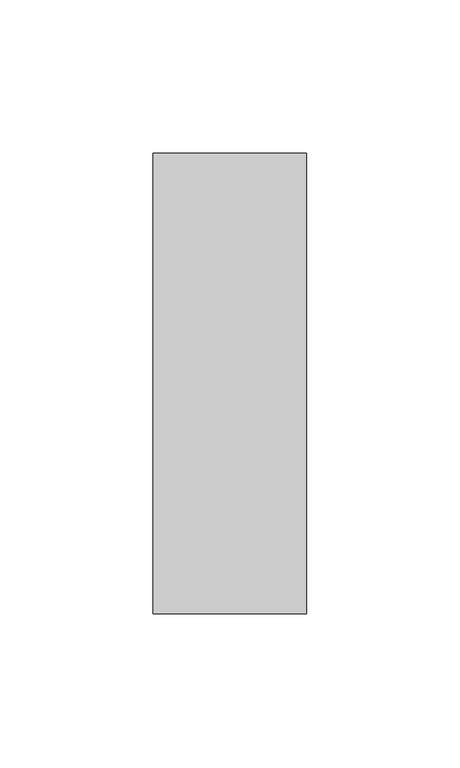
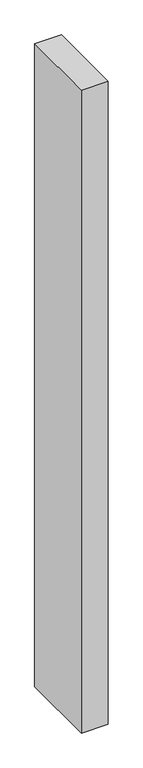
"""IFC4 building model written with IfcOpenShell, lengths in millimetres: member geometry, Прямоугольный импост : 50 x 150 мм."""

from ifc_helpers import new_model, si_unit, frame, origin, place, context, project, spatial, polyline, outline, extrude, source, transform, mapped, element, save


def member_f12fed75(model_context):
    return source(origin(), model_context, "Body", "SweptSolid", [
        extrude(outline(polyline([(25.0, 75.0), (25.0, -75.0), (-25.0, -75.0), (-25.0, 75.0), (25.0, 75.0)])), frame((0.0, 0.0, -1263.3746931), z_axis=(0.0, 0.0, 1.0), x_axis=(1.0, 0.0, 0.0)), (0.0, 0.0, 1.0), 1263.3746931),
    ])


if __name__ == "__main__":
    model = new_model("IFC4")
    model_context = context("Model", 3, world=origin())
    ifc_project = project(units=[si_unit("LENGTHUNIT", "METRE", prefix="MILLI")], contexts=[model_context])
    site = spatial("IfcSite", under=ifc_project)
    building = spatial("IfcBuilding", under=site)
    placement = place(None, origin())
    member_shape = member_f12fed75(model_context)
    element("IfcMember", 1, ObjectType="Прямоугольный импост : 50 x 150 мм", at=placement, inside=building, context=model_context, shape_type="MappedRepresentation", body=[
        mapped(member_shape, transform((0.0, 0.0, 0.0), x_axis=(1.0, 0.0, 0.0), y_axis=(0.0, 1.0, 0.0), z_axis=(0.0, 0.0, 1.0))),
    ])
    save(model, "model.ifc")
